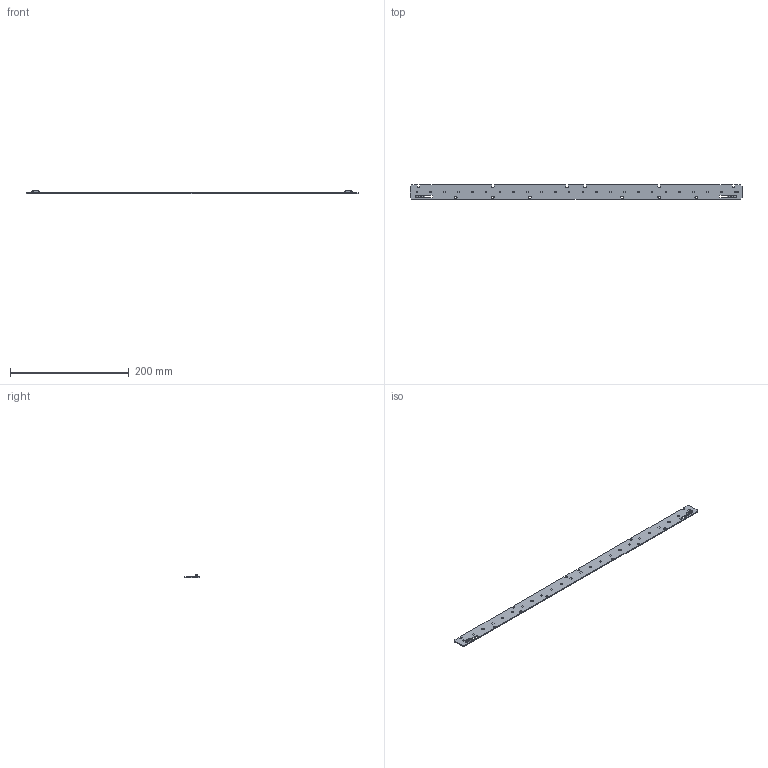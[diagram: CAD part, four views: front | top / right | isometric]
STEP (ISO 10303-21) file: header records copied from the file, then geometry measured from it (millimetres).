
FILE_DESCRIPTION((''),'2;1');
FILE_NAME('16208805_LLE-G5-24X560-1300LM','2018-08-21T11:22:08',('bernhard.fink'),(''),'CREO PARAMETRIC BY PTC INC, 2017380','CREO PARAMETRIC BY PTC INC, 2017380','');
FILE_SCHEMA(('AUTOMOTIVE_DESIGN { 1 0 10303 214 1 1 1 1 }'));
Length unit declared in the file: millimetre
Products named in the file (1): 16208805_LLE-G5-24X560-1300LM
Bounding box: 559 x 23.6 x 5.1 mm (x, y, z)
Volume: 21587.2 mm3; surface area: 28514.2 mm2
Topology: 1 solids, 1 shells, 769 faces, 2024 edges, 1284 vertices
Faces by surface type: plane 365, cylinder 226, bspline 120, cone 34, torus 12, sphere 12
Entity records: 40188 total; most frequent: CARTESIAN_POINT 10331, ORIENTED_EDGE 4020, DIRECTION 3278, PRESENTATION_STYLE_ASSIGNMENT 2780, STYLED_ITEM 2011, CURVE_STYLE 2010, EDGE_CURVE 2010, VERTEX_POINT 1282
